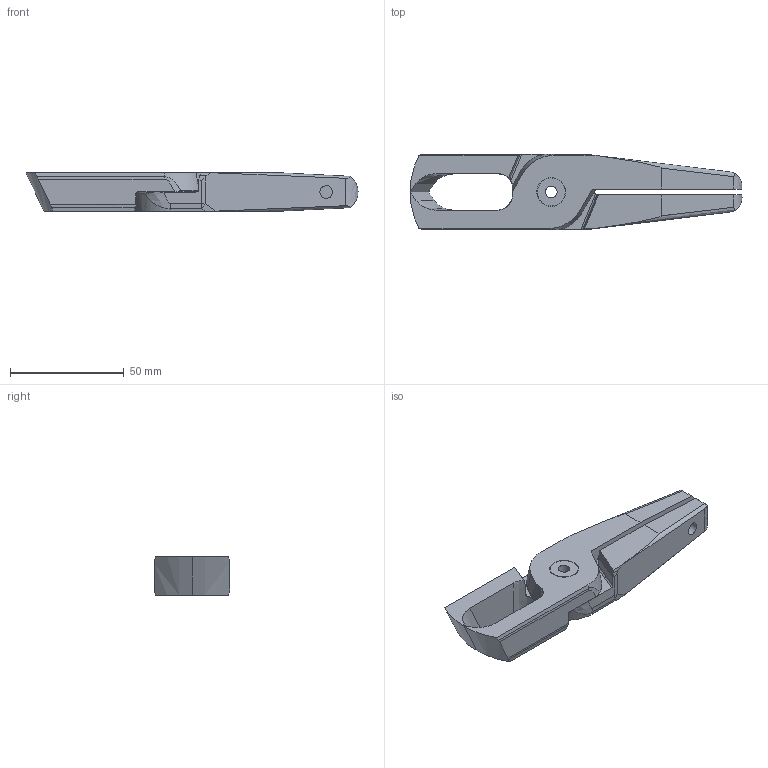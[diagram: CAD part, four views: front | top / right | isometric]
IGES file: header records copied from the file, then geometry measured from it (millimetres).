
Global section: file name: N30AE2183 ; native system: unknown; preprocessor: unknown; author: unknown; organization: unknown; date: 20210430.110840; units: millimetre
Bounding box: 145.91 x 33 x 16.99 mm (x, y, z)
Volume: 51265.3 mm3; surface area: 19551.2 mm2
Topology: 3 solids, 3 shells, 115 faces, 326 edges, 215 vertices
Faces by surface type: bspline 115
